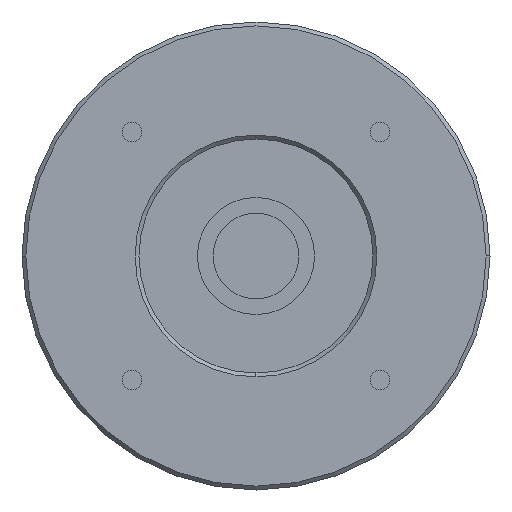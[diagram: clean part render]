
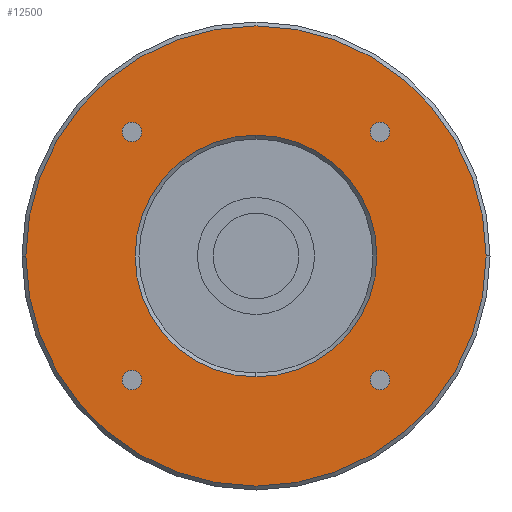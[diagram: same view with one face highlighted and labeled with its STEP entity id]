
A CAD part, left-side view. The second image highlights one B-rep face of the part: STEP entity #12500.
In plain terms, the highlighted planar face has unit normal (-1, 0, 0) as drawn and (0, 0, -1) by its records, which use the part's own axes.
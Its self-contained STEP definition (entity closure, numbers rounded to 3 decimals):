
#8750=CARTESIAN_POINT('',(0.,15.5,-35.5));
#8760=VERTEX_POINT('',#8750);
#8790=CARTESIAN_POINT('',(0.,0.,
-35.5));
#8800=DIRECTION('',(0.,0.,-1.));
#8810=DIRECTION('',(-1.,0.,0.));
#8820=AXIS2_PLACEMENT_3D('',#8790,#8800,#8810);
#8830=CIRCLE('',#8820,15.5);
#8840=CARTESIAN_POINT('',(-15.5,0.,-35.5));
#8850=VERTEX_POINT('',#8840);
#8860=EDGE_CURVE('',#8850,#8760,#8830,.T.);
#8880=CARTESIAN_POINT('',(0.,-15.5,-35.5));
#8890=VERTEX_POINT('',#8880);
#8900=EDGE_CURVE('',#8890,#8850,#8830,.T.);
#11350=CARTESIAN_POINT('',(-14.66,-15.91,-35.5));
#11360=VERTEX_POINT('',#11350);
#11390=CARTESIAN_POINT('',(-15.91,-15.91,-35.5));
#11400=DIRECTION('',(0.,0.,-1.));
#11410=DIRECTION('',(0.,-1.,0.));
#11420=AXIS2_PLACEMENT_3D('',#11390,#11400,#11410);
#11430=CIRCLE('',#11420,1.25);
#11440=CARTESIAN_POINT('',(-17.16,-15.91,-35.5));
#11450=VERTEX_POINT('',#11440);
#11460=EDGE_CURVE('',#11450,#11360,#11430,.T.);
#11580=CARTESIAN_POINT('',(0.,0.,
-35.5));
#11590=DIRECTION('',(0.,0.,-1.));
#11600=DIRECTION('',(-1.,0.,0.));
#11610=AXIS2_PLACEMENT_3D('',#11580,#11590,#11600);
#11620=PLANE('',#11610);
#11630=CARTESIAN_POINT('',(-15.91,15.91,-35.5));
#11640=DIRECTION('',(0.,0.,-1.));
#11650=DIRECTION('',(0.,-1.,0.));
#11660=AXIS2_PLACEMENT_3D('',#11630,#11640,#11650);
#11670=CIRCLE('',#11660,1.25);
#11680=CARTESIAN_POINT('',(-15.91,14.66,-35.5));
#11690=VERTEX_POINT('',#11680);
#11700=CARTESIAN_POINT('',(-17.16,15.91,-35.5));
#11710=VERTEX_POINT('',#11700);
#11720=EDGE_CURVE('',#11690,#11710,#11670,.T.);
#11730=ORIENTED_EDGE('',*,*,#11720,.F.);
#11740=CARTESIAN_POINT('',(-14.66,15.91,-35.5));
#11750=VERTEX_POINT('',#11740);
#11760=EDGE_CURVE('',#11710,#11750,#11670,.T.);
#11770=ORIENTED_EDGE('',*,*,#11760,.F.);
#11780=EDGE_CURVE('',#11750,#11690,#11670,.T.);
#11790=ORIENTED_EDGE('',*,*,#11780,.F.);
#11800=EDGE_LOOP('',(#11790,#11770,#11730));
#11810=FACE_BOUND('',#11800,.T.);
#11820=CARTESIAN_POINT('',(15.91,15.91,-35.5));
#11830=DIRECTION('',(0.,0.,-1.));
#11840=DIRECTION('',(0.,-1.,0.));
#11850=AXIS2_PLACEMENT_3D('',#11820,#11830,#11840);
#11860=CIRCLE('',#11850,1.25);
#11870=CARTESIAN_POINT('',(15.91,14.66,-35.5));
#11880=VERTEX_POINT('',#11870);
#11890=CARTESIAN_POINT('',(14.66,15.91,-35.5));
#11900=VERTEX_POINT('',#11890);
#11910=EDGE_CURVE('',#11880,#11900,#11860,.T.);
#11920=ORIENTED_EDGE('',*,*,#11910,.F.);
#11930=CARTESIAN_POINT('',(17.16,15.91,-35.5));
#11940=VERTEX_POINT('',#11930);
#11950=EDGE_CURVE('',#11900,#11940,#11860,.T.);
#11960=ORIENTED_EDGE('',*,*,#11950,.F.);
#11970=EDGE_CURVE('',#11940,#11880,#11860,.T.);
#11980=ORIENTED_EDGE('',*,*,#11970,.F.);
#11990=EDGE_LOOP('',(#11980,#11960,#11920));
#12000=FACE_BOUND('',#11990,.T.);
#12010=CARTESIAN_POINT('',(15.91,-15.91,-35.5));
#12020=DIRECTION('',(0.,0.,-1.));
#12030=DIRECTION('',(0.,-1.,0.));
#12040=AXIS2_PLACEMENT_3D('',#12010,#12020,#12030);
#12050=CIRCLE('',#12040,1.25);
#12060=CARTESIAN_POINT('',(15.91,-17.16,-35.5));
#12070=VERTEX_POINT('',#12060);
#12080=CARTESIAN_POINT('',(14.66,-15.91,-35.5));
#12090=VERTEX_POINT('',#12080);
#12100=EDGE_CURVE('',#12070,#12090,#12050,.T.);
#12110=ORIENTED_EDGE('',*,*,#12100,.F.);
#12120=CARTESIAN_POINT('',(17.16,-15.91,-35.5));
#12130=VERTEX_POINT('',#12120);
#12140=EDGE_CURVE('',#12090,#12130,#12050,.T.);
#12150=ORIENTED_EDGE('',*,*,#12140,.F.);
#12160=EDGE_CURVE('',#12130,#12070,#12050,.T.);
#12170=ORIENTED_EDGE('',*,*,#12160,.F.);
#12180=EDGE_LOOP('',(#12170,#12150,#12110));
#12190=FACE_BOUND('',#12180,.T.);
#12200=CARTESIAN_POINT('',(-15.91,-17.16,-35.5));
#12210=VERTEX_POINT('',#12200);
#12220=EDGE_CURVE('',#12210,#11450,#11430,.T.);
#12230=ORIENTED_EDGE('',*,*,#12220,.F.);
#12240=ORIENTED_EDGE('',*,*,#11460,.F.);
#12250=EDGE_CURVE('',#11360,#12210,#11430,.T.);
#12260=ORIENTED_EDGE('',*,*,#12250,.F.);
#12270=EDGE_LOOP('',(#12260,#12240,#12230));
#12280=FACE_BOUND('',#12270,.T.);
#12290=CARTESIAN_POINT('',(0.,0.,
-35.5));
#12300=DIRECTION('',(0.,0.,-1.));
#12310=DIRECTION('',(-1.,0.,0.));
#12320=AXIS2_PLACEMENT_3D('',#12290,#12300,#12310);
#12330=CIRCLE('',#12320,29.5);
#12340=CARTESIAN_POINT('',(-29.5,0.,-35.5));
#12350=VERTEX_POINT('',#12340);
#12360=CARTESIAN_POINT('',(29.5,0.,-35.5));
#12370=VERTEX_POINT('',#12360);
#12380=EDGE_CURVE('',#12350,#12370,#12330,.T.);
#12390=ORIENTED_EDGE('',*,*,#12380,.T.);
#12400=EDGE_CURVE('',#12370,#12350,#12330,.T.);
#12410=ORIENTED_EDGE('',*,*,#12400,.T.);
#12420=EDGE_LOOP('',(#12410,#12390));
#12430=FACE_OUTER_BOUND('',#12420,.T.);
#12440=ORIENTED_EDGE('',*,*,#8860,.F.);
#12450=EDGE_CURVE('',#8760,#8890,#8830,.T.);
#12460=ORIENTED_EDGE('',*,*,#12450,.F.);
#12470=ORIENTED_EDGE('',*,*,#8900,.F.);
#12480=EDGE_LOOP('',(#12470,#12460,#12440));
#12490=FACE_BOUND('',#12480,.T.);
#12500=ADVANCED_FACE('',(#11810,#12000,#12190,#12280,#12430,#12490),
#11620,.T.);
